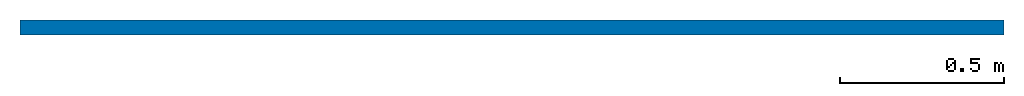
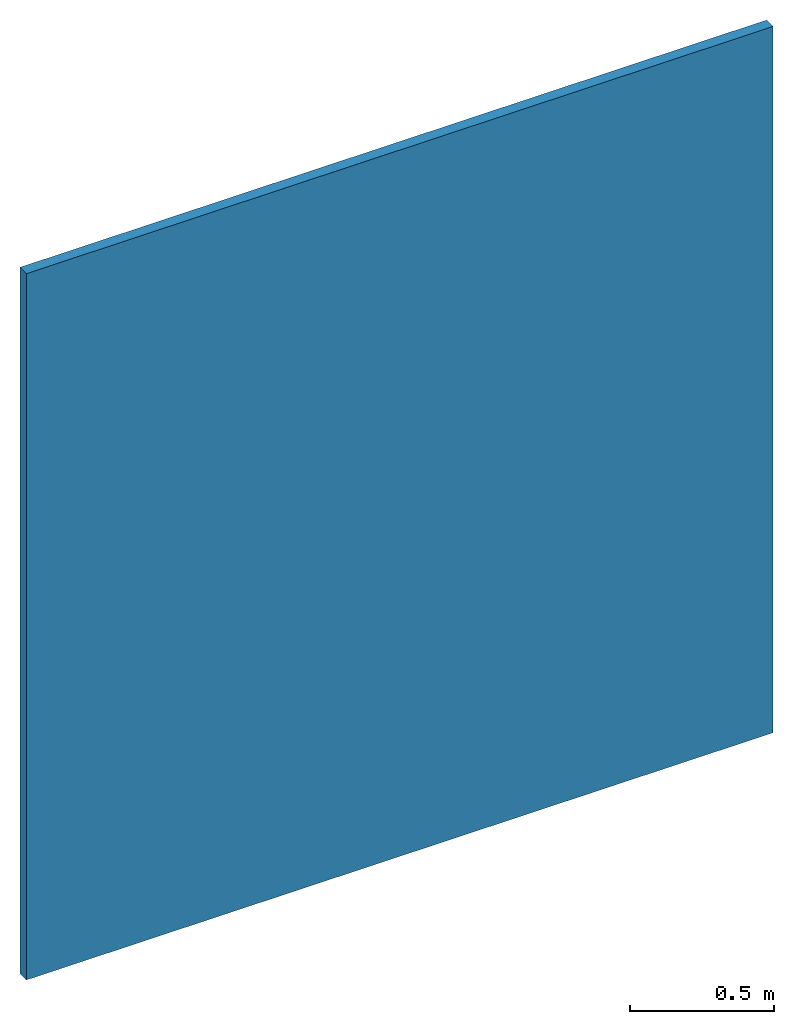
# One storey: 1 wall.
"""IFC2X3 building model written with IfcOpenShell, lengths in millimetres."""

from ifc_helpers import new_model, entity, si_unit, converted_unit, derived_unit, direction, frame, frame_2d, origin, place, context, subcontext, project, spatial, rectangle, extrude, material, layer, layer_set, layer_usage, type_object, element, save


model = new_model("IFC2X3")

# Units and contexts
model_context = context("Model", 3, precision=0.01, world=origin(), true_north=direction((6.12303176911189e-17, 1.0)))
body_context = subcontext(model_context, "Body", "Model", "MODEL_VIEW")
ifc_project = project(units=[si_unit("LENGTHUNIT", "METRE", prefix="MILLI"), si_unit("AREAUNIT", "SQUARE_METRE"), si_unit("VOLUMEUNIT", "CUBIC_METRE"), converted_unit("PLANEANGLEUNIT", "DEGREE", entity("IfcRatioMeasure", 0.0174532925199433), si_unit("PLANEANGLEUNIT", "RADIAN"), dimensions=[0, 0, 0, 0, 0, 0, 0]), si_unit("MASSUNIT", "GRAM", prefix="KILO"), si_unit("TIMEUNIT", "SECOND"), si_unit("FREQUENCYUNIT", "HERTZ"), si_unit("THERMODYNAMICTEMPERATUREUNIT", "DEGREE_CELSIUS"), derived_unit("THERMALTRANSMITTANCEUNIT", [(si_unit("MASSUNIT", "GRAM", prefix="KILO"), 1), (si_unit("THERMODYNAMICTEMPERATUREUNIT", "KELVIN"), -1), (si_unit("TIMEUNIT", "SECOND"), -3)]), derived_unit("VOLUMETRICFLOWRATEUNIT", [(si_unit("LENGTHUNIT", "METRE"), 3), (si_unit("TIMEUNIT", "SECOND"), -1)]), si_unit("ELECTRICCURRENTUNIT", "AMPERE"), si_unit("ELECTRICVOLTAGEUNIT", "VOLT"), si_unit("POWERUNIT", "WATT"), si_unit("FORCEUNIT", "NEWTON", prefix="KILO"), si_unit("ILLUMINANCEUNIT", "LUX"), si_unit("LUMINOUSFLUXUNIT", "LUMEN"), si_unit("LUMINOUSINTENSITYUNIT", "CANDELA"), derived_unit("USERDEFINED", [(si_unit("MASSUNIT", "GRAM", prefix="KILO"), -1), (si_unit("LENGTHUNIT", "METRE"), -2), (si_unit("TIMEUNIT", "SECOND"), 3), (si_unit("LUMINOUSFLUXUNIT", "LUMEN"), 1)]), derived_unit("LINEARVELOCITYUNIT", [(si_unit("LENGTHUNIT", "METRE"), 1), (si_unit("TIMEUNIT", "SECOND"), -1)]), si_unit("PRESSUREUNIT", "PASCAL"), derived_unit("USERDEFINED", [(si_unit("LENGTHUNIT", "METRE"), -2), (si_unit("MASSUNIT", "GRAM", prefix="KILO"), 1), (si_unit("TIMEUNIT", "SECOND"), -2)])], contexts=[model_context])

# Site, building, storey
site_placement = place(None, origin())
site = spatial("IfcSite", under=ifc_project, at=site_placement, Name="Default", CompositionType="ELEMENT")
building_placement = place(site_placement, origin())
building = spatial("IfcBuilding", under=site, at=building_placement, CompositionType="ELEMENT")
storey_placement = place(building_placement, origin())
storey = spatial("IfcBuildingStorey", under=building, at=storey_placement, Name="Уровень 1", CompositionType="ELEMENT", Elevation=0.0)

# Wall
ifc_material_1 = material(Name="КНАУФ-лист")
ifc_layer_1 = layer(ifc_material_1, 12.5)
ifc_material_2 = material(Name="КНАУФ-лист прерывистый")
ifc_layer_2 = layer(ifc_material_2, 12.5)
ifc_material_3 = material(Name="Кнауф-Шпаклевка прерывистая")
ifc_layer_3 = layer(ifc_material_3, 20.0)
ifc_layer_set = layer_set([ifc_layer_1, ifc_layer_2, ifc_layer_3], Name="Базовая стена:Облицовка КНАУФ С611 Применение внутри здания ГСП-А 12.5 В")
ifc_layer_usage = layer_usage(ifc_layer_set, "AXIS2", "NEGATIVE", 22.5)
wall_type = type_object("IfcWallType", Name="Базовая стена:Облицовка КНАУФ С611 Применение внутри здания ГСП-А 12.5 В", PredefinedType="STANDARD", material=ifc_layer_set)
wall_placement = place(storey_placement, frame((-306.505507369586, 629.388845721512, 0.0)))
element("IfcWallStandardCase", 1, at=wall_placement, inside=storey, type_object=wall_type, material=ifc_layer_usage, Name="Базовая стена:Облицовка КНАУФ С611 Применение внутри здания ГСП-А 12.5 В", ObjectType="Базовая стена:Облицовка КНАУФ С611 Применение внутри здания ГСП-А 12.5 В", context=body_context, shape_type="SweptSolid", body=[
    extrude(rectangle(XDim=3000.0, YDim=45.0000000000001, at=frame_2d((1500.0, 0.0), x_axis=(-1.0, 0.0))), origin(), (0.0, 0.0, 1.0), 3000.0),
])

save(model, "model.ifc")
